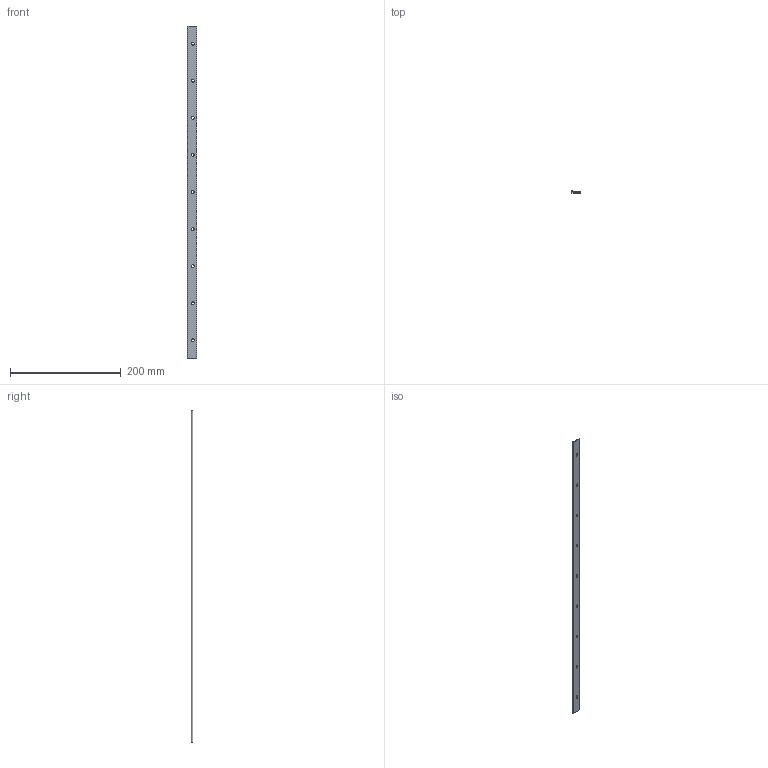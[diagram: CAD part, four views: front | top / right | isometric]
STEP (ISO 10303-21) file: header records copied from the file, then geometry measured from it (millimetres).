
FILE_DESCRIPTION (( 'STEP AP203' ), '1' );
FILE_NAME ('Charnière_600.STEP', '2026-06-24T07:29:51', ( '' ), ( '' ), 'SwSTEP 2.0', 'SolidWorks 2024', '' );
FILE_SCHEMA (( 'CONFIG_CONTROL_DESIGN' ));
Length unit declared in the file: millimetre
Products named in the file (1): Charnière_600_600
Bounding box: 17.5 x 3 x 600 mm (x, y, z)
Volume: 17315.8 mm3; surface area: 23358.4 mm2
Topology: 1 solids, 1 shells, 15 faces, 39 edges, 26 vertices
Faces by surface type: cylinder 10, plane 5
Full cylindrical faces by diameter (mm): 5 x9
Entity records: 539 total; most frequent: DIRECTION 82, CARTESIAN_POINT 72, ORIENTED_EDGE 60, EDGE_LOOP 42, AXIS2_PLACEMENT_3D 36, EDGE_CURVE 30, VERTEX_POINT 26, FACE_OUTER_BOUND 24
